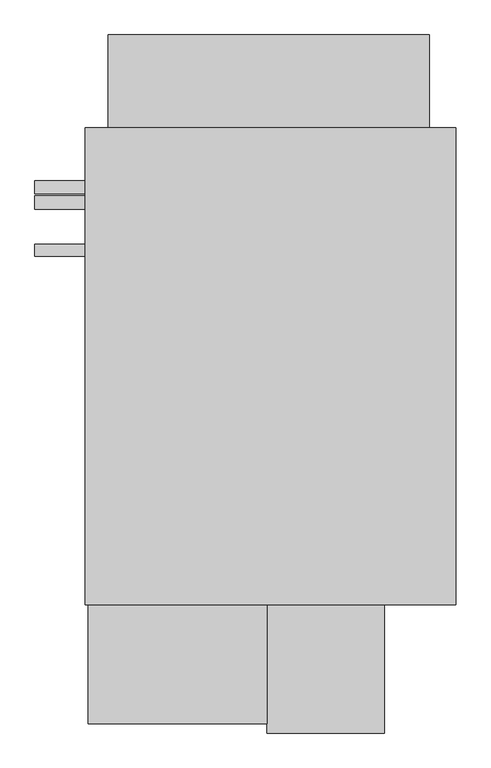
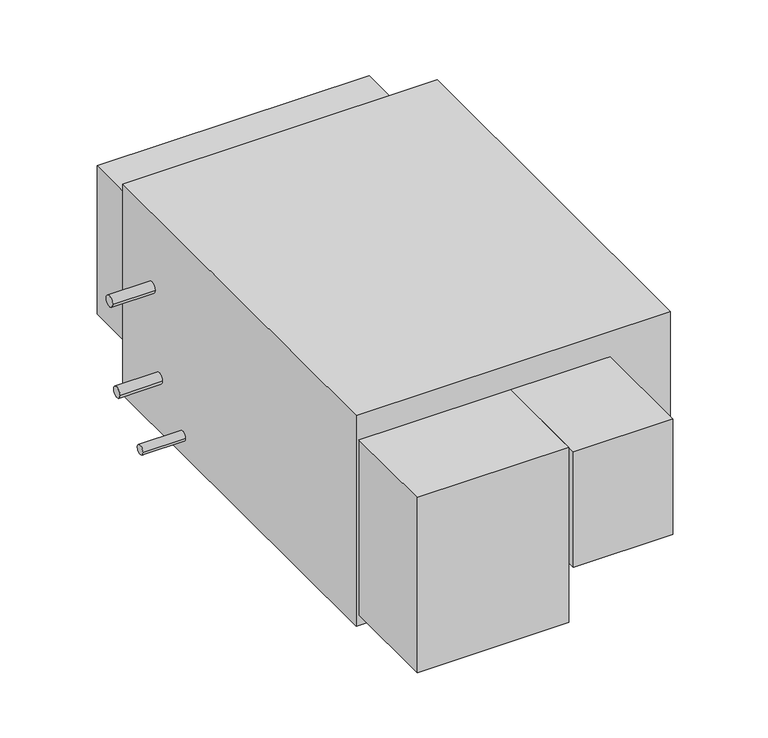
"""IFC4 building model written with IfcOpenShell, lengths in millimetres: proxy geometry, Horizontal_Direct_Drive_Blower_Coil_Unit_-_42DHA_-_CARRIER_-_2-Pipe_Cool-EHeat_LH_2022 : Size 06 - 460v/60Hz/3Ph - 8 Row 6.0kW LH."""

import ifcopenshell
import ifcopenshell.guid

model = None  # the IFC model being written
_history = None  # IfcOwnerHistory: only IFC2X3 demands one
_inside = {}  # id of a spatial element -> (the spatial element, [elements in it])
_under = {}  # id of a project, library or spatial element -> (it, [spatial elements below it])
_declared = {}  # id of a project -> (the project, [libraries it declares])
_typed = {}  # id of a type object -> (the type object, [elements of that type])
_made_of = {}  # id of a material, layer set ... -> (it, [elements and type objects made of it])


def new_model(schema):
    """Start an empty IFC model of exactly this schema.

    Asked for "IFC4X3", IfcOpenShell would pick the latest addendum, in which some entities
    have other attributes; the version numbers below select the first issue.
    IFC2X3 requires an IfcOwnerHistory on every rooted entity: one is made here for all.
    """
    global model, _history
    if schema == "IFC4X3":
        model = ifcopenshell.file(schema_version=(4, 3, 0, 0))
    else:
        model = ifcopenshell.file(schema=schema)
    _inside.clear()
    _under.clear()
    _declared.clear()
    _typed.clear()
    _made_of.clear()
    _history = None
    if model.schema == "IFC2X3":
        org = make("IfcOrganization", Name="unknown")
        user = make(
            "IfcPersonAndOrganization",
            ThePerson=make("IfcPerson", FamilyName="unknown"),
            TheOrganization=org,
        )
        app = make(
            "IfcApplication",
            ApplicationDeveloper=org,
            Version="unknown",
            ApplicationFullName="unknown",
            ApplicationIdentifier="unknown",
        )
        _history = make(
            "IfcOwnerHistory",
            OwningUser=user,
            OwningApplication=app,
            ChangeAction="ADDED",
            CreationDate=0,
        )
    return model


def make(cls, **values):
    """One entity of the class cls with the attributes given. An attribute that is None is left unset."""
    return model.create_entity(
        cls, **{name: value for name, value in values.items() if value is not None}
    )


def rooted(cls, **values):
    """An entity with a GlobalId (a new one), such as an element, a storey or a relation."""
    return make(cls, GlobalId=ifcopenshell.guid.new(), OwnerHistory=_history, **values)


def si_unit(unit_type, name, prefix=None):
    """IfcSIUnit, for example si_unit("LENGTHUNIT", "METRE", prefix="MILLI")."""
    return make("IfcSIUnit", UnitType=unit_type, Prefix=prefix, Name=name)


def assignment(units):
    """IfcUnitAssignment: the units of a project."""
    return None if units is None else make("IfcUnitAssignment", Units=units)


def point(xyz):
    """IfcCartesianPoint."""
    return None if xyz is None else make("IfcCartesianPoint", Coordinates=xyz)


def direction(xyz):
    """IfcDirection."""
    return None if xyz is None else make("IfcDirection", DirectionRatios=xyz)


def frame(location, z_axis=None, x_axis=None):
    """IfcAxis2Placement3D, a coordinate frame: its origin and axes. An axis left out is left unset."""
    return make(
        "IfcAxis2Placement3D",
        Location=point(location),
        Axis=direction(z_axis),
        RefDirection=direction(x_axis),
    )


def frame_2d(location, x_axis=None):
    """IfcAxis2Placement2D, a coordinate frame in the plane: its origin and x axis."""
    return make(
        "IfcAxis2Placement2D", Location=point(location), RefDirection=direction(x_axis)
    )


def origin():
    """The frame at (0, 0, 0) with its axes left unset."""
    return frame((0.0, 0.0, 0.0))


def place(relative_to, where):
    """IfcLocalPlacement: puts the frame where relative to a parent placement (None: the world)."""
    return make(
        "IfcLocalPlacement", PlacementRelTo=relative_to, RelativePlacement=where
    )


def context(
    kind, dimensions, precision=None, world=None, true_north=None, identifier=None
):
    """IfcGeometricRepresentationContext, for example the 3D "Model" context."""
    return make(
        "IfcGeometricRepresentationContext",
        ContextIdentifier=identifier,
        ContextType=kind,
        CoordinateSpaceDimension=dimensions,
        Precision=precision,
        WorldCoordinateSystem=world,
        TrueNorth=true_north,
    )


def project(units=None, contexts=None):
    """IfcProject with its units and contexts."""
    return rooted(
        "IfcProject",
        Name="project",
        RepresentationContexts=contexts,
        UnitsInContext=assignment(units),
    )


def spatial(cls, under=None, at=None, **own):
    """A site, building, storey or space (cls), placed at a placement, below another one or the project."""
    s = rooted(cls, ObjectPlacement=at, **own)
    if under is not None:
        _under.setdefault(under.id(), (under, []))[1].append(s)
    return s


def polyline(points):
    """IfcPolyline through the points."""
    return make("IfcPolyline", Points=[point(p) for p in points])


def circle_curve(where, radius):
    """IfcCircle in the frame where."""
    return make("IfcCircle", Position=where, Radius=radius)


def trimmed(basis, trim1, trim2, sense, master):
    """IfcTrimmedCurve: the piece of a basis curve between two trims."""
    return make(
        "IfcTrimmedCurve",
        BasisCurve=basis,
        Trim1=trim1,
        Trim2=trim2,
        SenseAgreement=sense,
        MasterRepresentation=master,
    )


def segment(curve, same_sense, transition):
    """IfcCompositeCurveSegment."""
    return make(
        "IfcCompositeCurveSegment",
        Transition=transition,
        SameSense=same_sense,
        ParentCurve=curve,
    )


def composite_curve(segments, self_intersect=None):
    """IfcCompositeCurve: segments joined end to end."""
    return make("IfcCompositeCurve", Segments=segments, SelfIntersect=self_intersect)


def outline(outer, holes=None, kind="AREA"):
    """IfcArbitraryClosedProfileDef: a profile drawn as a closed curve; with holes, ...WithVoids."""
    if holes is None:
        return make("IfcArbitraryClosedProfileDef", ProfileType=kind, OuterCurve=outer)
    return make(
        "IfcArbitraryProfileDefWithVoids",
        ProfileType=kind,
        OuterCurve=outer,
        InnerCurves=holes,
    )


def extrude(swept, where, along, depth):
    """IfcExtrudedAreaSolid: the profile swept, set in the frame where, extruded along a direction by depth."""
    return make(
        "IfcExtrudedAreaSolid",
        SweptArea=swept,
        Position=where,
        ExtrudedDirection=direction(along),
        Depth=depth,
    )


def shape(context_of_items, identifier, shape_type, items):
    """IfcShapeRepresentation: the items that make up one representation, for example the "Body"."""
    return make(
        "IfcShapeRepresentation",
        ContextOfItems=context_of_items,
        RepresentationIdentifier=identifier,
        RepresentationType=shape_type,
        Items=items,
    )


def source(mapping_origin, context_of_items, identifier, shape_type, items):
    """IfcRepresentationMap: a shape defined once, which mapped items show again and again."""
    return make(
        "IfcRepresentationMap",
        MappingOrigin=mapping_origin,
        MappedRepresentation=shape(context_of_items, identifier, shape_type, items),
    )


def transform(
    local_origin,
    x_axis=None,
    y_axis=None,
    z_axis=None,
    scale=None,
    scale2=None,
    scale3=None,
    uniform=True,
):
    """IfcCartesianTransformationOperator3D, or its non-uniform kind. x_axis, y_axis, z_axis: its Axis1, 2, 3."""
    if uniform:
        return make(
            "IfcCartesianTransformationOperator3D",
            Axis1=direction(x_axis),
            Axis2=direction(y_axis),
            LocalOrigin=point(local_origin),
            Scale=scale,
            Axis3=direction(z_axis),
        )
    return make(
        "IfcCartesianTransformationOperator3DnonUniform",
        Axis1=direction(x_axis),
        Axis2=direction(y_axis),
        LocalOrigin=point(local_origin),
        Scale=scale,
        Axis3=direction(z_axis),
        Scale2=scale2,
        Scale3=scale3,
    )


def mapped(mapping_source, mapping_target):
    """IfcMappedItem: shows the shape of a source again, moved by a transform."""
    return make(
        "IfcMappedItem", MappingSource=mapping_source, MappingTarget=mapping_target
    )


def made_of(thing, what):
    """Note that an element or type object is made of a material, layer set ...; save() writes the relation."""
    if what is not None:
        _made_of.setdefault(what.id(), (what, []))[1].append(thing)
    return thing


def element(
    cls,
    number,
    at=None,
    inside=None,
    cuts=None,
    type_object=None,
    material=None,
    context=None,
    identifier="Body",
    shape_type=None,
    held_by="IfcProductDefinitionShape",
    body=None,
    shapes=None,
    **own,
):
    """One element of the class cls, such as IfcWall. Its Tag is "e" and its number.

    at: its placement. inside: the storey or other place that contains it. cuts: it is an
    opening in that element (IfcRelVoidsElement). A single representation is given by context,
    identifier, shape_type and body (its items); several are given by shapes. held_by: the class
    of the entity that holds the representations. save() writes the other relations.
    """
    e = rooted(cls, Tag="e%d" % number, ObjectPlacement=at, **own)
    if body is not None:
        shapes = [shape(context, identifier, shape_type, body)]
    if shapes is not None:
        e.Representation = make(held_by, Representations=shapes)
    if inside is not None:
        _inside.setdefault(inside.id(), (inside, []))[1].append(e)
    if cuts is not None:
        rooted(
            "IfcRelVoidsElement", RelatingBuildingElement=cuts, RelatedOpeningElement=e
        )
    if type_object is not None:
        _typed.setdefault(type_object.id(), (type_object, []))[1].append(e)
    return made_of(e, material)


def aggregate(whole, parts):
    """IfcRelAggregates: a whole, such as a stair, and the parts it consists of."""
    return rooted("IfcRelAggregates", RelatingObject=whole, RelatedObjects=parts)


def save(model, path):
    """Write the relations noted so far, then the file.

    IfcRelAggregates (storeys below a building ...), IfcRelContainedInSpatialStructure (elements
    in a storey), IfcRelDefinesByType, IfcRelAssociatesMaterial and IfcRelDeclares: one each for
    every whole, place, type object, material and project.
    """
    for whole, parts in _under.values():
        aggregate(whole, parts)
    for where, things in _inside.values():
        rooted(
            "IfcRelContainedInSpatialStructure",
            RelatedElements=things,
            RelatingStructure=where,
        )
    for kind, things in _typed.values():
        rooted("IfcRelDefinesByType", RelatedObjects=things, RelatingType=kind)
    for what, things in _made_of.values():
        rooted("IfcRelAssociatesMaterial", RelatedObjects=things, RelatingMaterial=what)
    for by, libraries in _declared.values():
        rooted("IfcRelDeclares", RelatingContext=by, RelatedDefinitions=libraries)
    model.write(path)


def mechanical_equipment_5b5a3d8c(model_context):
    return source(origin(), model_context, "Body", "SweptSolid", [
        extrude(outline(composite_curve([segment(trimmed(circle_curve(frame_2d((377.825, -177.8)), 12.7), [point((365.125, -177.8))], [point((390.525, -177.8))], False, "CARTESIAN"), True, "CONTINUOUS"), segment(trimmed(circle_curve(frame_2d((377.825, -177.8)), 12.7), [point((390.525, -177.8))], [point((365.125, -177.8))], False, "CARTESIAN"), True, "CONTINUOUS")], self_intersect=False)), frame((-1163.1025559, 0.0, 0.0), z_axis=(1.0, 0.0, 0.0), x_axis=(0.0, 1.0, 0.0)), (0.0, 0.0, 1.0), 96.3025559),
        extrude(outline(composite_curve([segment(trimmed(circle_curve(frame_2d((348.9715397, -377.8058174)), 12.7), [point((336.2715397, -377.8058174))], [point((361.6715397, -377.8058174))], False, "CARTESIAN"), True, "CONTINUOUS"), segment(trimmed(circle_curve(frame_2d((348.9715397, -377.8058174)), 12.7), [point((361.6715397, -377.8058174))], [point((336.2715397, -377.8058174))], False, "CARTESIAN"), True, "CONTINUOUS")], self_intersect=False)), frame((-1163.1025559, 0.0, 0.0), z_axis=(1.0, 0.0, 0.0), x_axis=(0.0, 1.0, 0.0)), (0.0, 0.0, 1.0), 96.3025559),
        extrude(outline(composite_curve([segment(trimmed(circle_curve(frame_2d((257.175, -460.3558174)), 11.1125), [point((246.0625, -460.3558174))], [point((268.2875, -460.3558174))], False, "CARTESIAN"), True, "CONTINUOUS"), segment(trimmed(circle_curve(frame_2d((257.175, -460.3558174)), 11.1125), [point((268.2875, -460.3558174))], [point((246.0625, -460.3558174))], False, "CARTESIAN"), True, "CONTINUOUS")], self_intersect=False)), frame((-1163.1025559, 0.0, 0.0), z_axis=(1.0, 0.0, 0.0), x_axis=(0.0, 1.0, 0.0)), (0.0, 0.0, 1.0), 96.3025559),
        extrude(outline(polyline([(-355.6, 492.125), (-355.6, -422.275), (-1066.8, -422.275), (-1066.8, 492.125), (-355.6, 492.125)])), frame((0.0, 0.0, -504.8058174), z_axis=(0.0, 0.0, 1.0), x_axis=(1.0, 0.0, 0.0)), (0.0, 0.0, 1.0), 504.8058174),
        extrude(outline(polyline([(-717.55, -650.875), (-1060.45, -650.875), (-1060.45, -422.275), (-717.55, -422.275), (-717.55, -650.875)])), frame((0.0, 0.0, -479.4058174), z_axis=(0.0, 0.0, 1.0), x_axis=(1.0, 0.0, 0.0)), (0.0, 0.0, 1.0), 419.1),
        extrude(outline(polyline([(-1022.35, 669.925), (-406.4, 669.925), (-406.4, 492.125), (-1022.35, 492.125), (-1022.35, 669.925)])), frame((0.0, 0.0, -434.9558174), z_axis=(0.0, 0.0, 1.0), x_axis=(1.0, 0.0, 0.0)), (0.0, 0.0, 1.0), 355.6),
        extrude(outline(polyline([(-492.125, -668.3375), (-717.55, -668.3375), (-717.55, -422.275), (-492.125, -422.275), (-492.125, -668.3375)])), frame((0.0, 0.0, -336.5308174), z_axis=(0.0, 0.0, 1.0), x_axis=(1.0, 0.0, 0.0)), (0.0, 0.0, 1.0), 276.225),
    ])


if __name__ == "__main__":
    model = new_model("IFC4")
    model_context = context("Model", 3, world=origin())
    ifc_project = project(units=[si_unit("LENGTHUNIT", "METRE", prefix="MILLI")], contexts=[model_context])
    site = spatial("IfcSite", under=ifc_project)
    building = spatial("IfcBuilding", under=site)
    placement = place(None, origin())
    mechanical_equipment_shape = mechanical_equipment_5b5a3d8c(model_context)
    element("IfcBuildingElementProxy", 1, Name="Horizontal_Direct_Drive_Blower_Coil_Unit_-_42DHA_-_CARRIER_-_2-Pipe_Cool-EHeat_LH_2022 : Size 06 - 460v/60Hz/3Ph - 8 Row 6.0kW LH", ObjectType="Horizontal_Direct_Drive_Blower_Coil_Unit_-_42DHA_-_CARRIER_-_2-Pipe_Cool-EHeat_LH_2022 : Size 06 - 460v/60Hz/3Ph - 8 Row 6.0kW LH", at=placement, inside=building, context=model_context, shape_type="MappedRepresentation", body=[
        mapped(mechanical_equipment_shape, transform((0.0, 0.0, 0.0), x_axis=(1.0, 0.0, 0.0), y_axis=(0.0, 1.0, 0.0), z_axis=(0.0, 0.0, 1.0))),
    ])
    save(model, "model.ifc")
